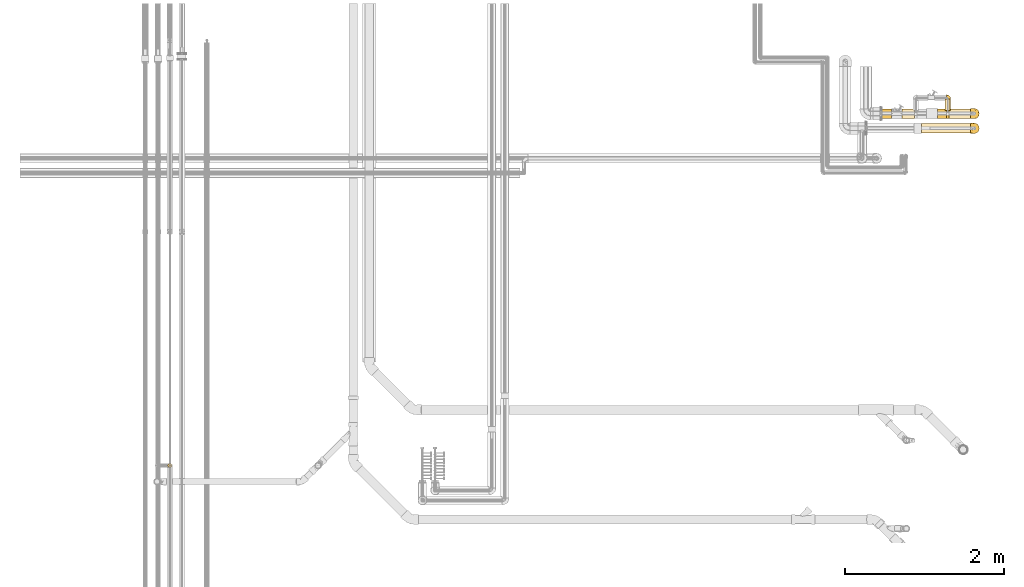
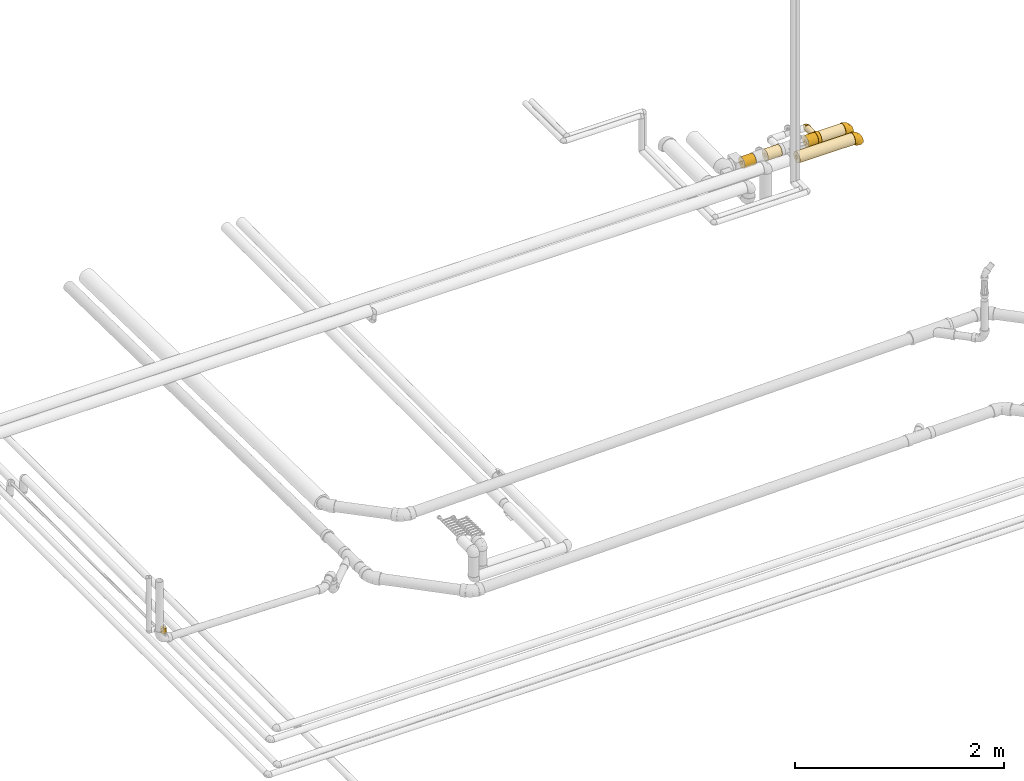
# One storey, part 9 of 83: 11 coverings.
"""IFC2X3 building model written with IfcOpenShell, lengths in millimetres."""

from ifc_helpers import new_model, entity, si_unit, converted_unit, derived_unit, direction, frame, origin_with_axes, origin_2d_with_axis, place, context, subcontext, project, spatial, hollow_circle, extrude, open_shell, surface_model, source, transform, mapped, element, save


model = new_model("IFC2X3")

# Units and contexts
model_context = context("Model", 3, precision=0.01, world=frame((0.0, 4.29681676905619e-09, 0.0)), true_north=direction((4.01073788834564e-13, 1.0)))
plan_context = context("Plan", 3, precision=0.01, world=frame((0.0, 4.29681676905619e-09, 0.0)), true_north=direction((4.01073788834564e-13, 1.0)))
body_context = subcontext(model_context, "Body", "Model", "MODEL_VIEW")
ifc_project = project(units=[converted_unit("PLANEANGLEUNIT", "DEGREE", entity("IfcPositiveLengthMeasure", 0.0174532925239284), si_unit("PLANEANGLEUNIT", "RADIAN"), dimensions=[0, 0, 0, 0, 0, 0, 0]), si_unit("AREAUNIT", "SQUARE_METRE"), si_unit("LENGTHUNIT", "METRE", prefix="MILLI"), si_unit("MASSUNIT", "GRAM", prefix="KILO"), si_unit("POWERUNIT", "WATT"), si_unit("PRESSUREUNIT", "PASCAL"), si_unit("FORCEUNIT", "NEWTON", prefix="KILO"), si_unit("ELECTRICVOLTAGEUNIT", "VOLT"), si_unit("ELECTRICCURRENTUNIT", "AMPERE"), si_unit("THERMODYNAMICTEMPERATUREUNIT", "DEGREE_CELSIUS"), si_unit("TIMEUNIT", "SECOND"), si_unit("VOLUMEUNIT", "CUBIC_METRE"), derived_unit("LINEARVELOCITYUNIT", [(si_unit("LENGTHUNIT", "METRE"), 1), (si_unit("TIMEUNIT", "SECOND"), -1)]), derived_unit("VOLUMETRICFLOWRATEUNIT", [(si_unit("VOLUMEUNIT", "CUBIC_METRE"), 1), (si_unit("TIMEUNIT", "SECOND"), -1)]), derived_unit("THERMALTRANSMITTANCEUNIT", [(si_unit("POWERUNIT", "WATT"), 1), (si_unit("THERMODYNAMICTEMPERATUREUNIT", "KELVIN"), -1), (si_unit("AREAUNIT", "SQUARE_METRE"), -1)]), derived_unit("SOUNDPRESSUREUNIT", [(si_unit("PRESSUREUNIT", "PASCAL"), 1)])], contexts=[model_context, plan_context])

# Site, building, storey
site_placement = place(None, frame((0.0, -4.29681676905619e-09, 0.0), z_axis=(0.0, 0.0, 1.0), x_axis=(1.0, 0.0, 0.0)))
site = spatial("IfcSite", under=ifc_project, at=site_placement, Name="ENGM", CompositionType="ELEMENT")
building_placement = place(site_placement, frame((0.0, 4.29681676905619e-09, 0.0), z_axis=(0.0, 0.0, 1.0), x_axis=(1.0, 0.0, 0.0)))
building = spatial("IfcBuilding", under=site, at=building_placement, Name="TI", CompositionType="ELEMENT")
storey_placement = place(building_placement, frame((0.0, 0.0, 204000.0), z_axis=(0.0, 0.0, 1.0), x_axis=(1.0, 0.0, 0.0)))
storey = spatial("IfcBuildingStorey", under=building, at=storey_placement, Name="Nivå D", CompositionType="ELEMENT", Elevation=204000.0)

# Coverings
shared_shape_1 = source(origin_with_axes(), body_context, "Body", "SurfaceModel", [
    surface_model("IfcShellBasedSurfaceModel", [(35.67206, 48.4, 53.37737), (12.52953, 48.4, 62.96547), (24.57409, 48.4, 59.31066), (53.38045, 48.4, 35.66746), (45.39837, 48.4, 45.39414), (59.31225, 48.4, 24.57023), (62.96584, 48.4, 12.52767), (-47.9758, 48.4, -42.66103), (-13.43483, 48.4, 62.77854), (0.0, 48.4, 64.2), (-26.28736, 48.4, 58.57145), (-37.97393, 48.4, 51.76505), (-47.9758, 48.4, 42.66103), (62.96547, 48.4, -12.52953), (53.37737, 48.4, -35.67206), (59.31066, 48.4, -24.57409), (45.39414, 48.4, -45.39837), (35.66746, 48.4, -53.38045), (-26.30165, 48.4, -58.56503), (-37.98609, 48.4, -51.75613), (-13.44957, 48.4, -62.77538), (12.52767, 48.4, -62.96584), (0.0, 48.4, -64.2), (24.57023, 48.4, -59.31225), (64.2, 48.4, 0.0), (-48.4, 47.9758, -42.66103), (-48.4, 37.97735, -51.76254), (-48.4, 0.0, -64.2), (-48.4, 26.29451, -58.56824), (-48.4, 13.44543, -62.77627), (-48.4, 0.0, 64.2), (-48.4, 37.97735, 51.76254), (-48.4, 47.9758, 42.66103), (-48.4, 26.29451, 58.56824), (-48.4, 13.44543, 62.77627), (-48.4, -32.1, -55.59883), (-48.4, -62.01244, -16.61618), (-48.4, -45.39626, -45.39626), (-48.4, -55.59883, -32.1), (-48.4, -16.61618, 62.01244), (-48.4, -32.1, 55.59883), (-48.4, -62.01244, 16.61618), (-48.4, -45.39626, 45.39626), (-48.4, -55.59883, 32.1), (-48.4, -64.2, 0.0), (-48.4, -16.61618, -62.01244), (-48.10004, 48.10004, 42.66103), (-48.10004, 48.10004, -42.66103), (-1.37629, 41.48093, -64.2), (-37.07461, 27.21182, -59.39278), (-44.97037, 35.57949, -53.73654), (-41.27827, 36.89498, -53.90532), (-37.00016, 45.60229, -52.70243), (-29.31531, 19.83775, -62.64408), (-14.17603, 14.17603, -64.2), (-22.02708, 8.93013, -64.2), (-39.73832, 21.3332, -61.01146), (-41.48093, 1.37629, -64.2), (-48.28795, 48.02221, -42.66103), (-38.16189, 38.88556, -54.19101), (-29.87812, 3.68423, -64.2), (-48.02221, 48.28795, -42.66103), (-21.33925, 39.73822, -61.00958), (-25.79325, 31.12393, -61.02233), (-36.96569, 42.42308, -53.49343), (-3.68423, 29.87812, -64.2), (-8.93013, 22.02708, -64.2), (-48.194, 48.06112, -42.66103), (-48.06112, 48.194, -42.66103), (8.48911, 18.24586, -62.1777), (16.99418, 33.64238, -61.43484), (-30.49395, -9.53365, -63.02284), (-38.64472, 1.94045, -64.2), (-21.95352, -19.60701, -59.31307), (-3.81793, -4.30592, -60.79427), (-3.0225, -24.9528, -51.85283), (20.49703, -8.14014, -49.62828), (15.0359, 4.70894, -57.46464), (35.23599, 5.50194, -45.19577), (-4.14099, -40.52829, -39.08248), (-26.35487, -36.2593, -50.93329), (25.09274, 20.34784, -56.61889), (36.99279, 25.05456, -50.11492), (29.14245, 35.16082, -56.61889), (-13.60469, -58.68896, 0.0), (-25.59283, -60.68938, -12.10735), (2.08894, -50.69012, -13.28018), (3.21553, 6.72208, -61.64201), (7.54281, -9.00849, -55.79479), (57.83799, 20.52552, -18.64159), (-17.95481, -54.92083, -24.56827), (-35.94397, -20.77355, -60.35428), (58.68896, 13.60469, 0.0), (-27.46493, -48.70213, -39.08248), (-1.84212, 39.13906, -64.2), (14.88455, -31.56029, -35.37693), (6.27929, -29.0505, -44.36228), (46.41546, 23.5232, -40.73128), (28.68519, -28.68518, -21.15353), (46.21866, 2.8391, -30.26881), (48.16466, -5.97091, -15.01547), (42.69531, -17.78462, 0.0), (29.68658, -15.30552, -37.126), (17.78462, -42.69531, 0.0), (53.29042, 22.17712, -30.26796), (-17.5789, -6.59656, -62.50752), (3.72961, -44.69, -26.90073), (27.68271, -13.41396, 40.72682), (39.69532, -10.61595, 28.27919), (35.06522, 5.93736, 45.5463), (-26.3805, -60.9583, 11.54664), (-4.25508, -53.97258, 11.91279), (10.97566, -43.46468, 20.06845), (-8.92303, -51.81813, 24.56827), (-30.73003, -57.85383, 24.56827), (58.76223, 24.31789, 18.63869), (-23.23629, -47.69313, 39.08248), (4.27109, -36.84856, 37.91588), (-9.23761, -29.82718, 50.93329), (6.78942, 17.28417, 62.43347), (16.45901, 31.43285, 61.43395), (-3.68423, 29.87812, 64.2), (22.53752, 14.39046, 56.6166), (-30.61027, -9.1573, 63.09805), (-27.71305, -21.57442, 59.31307), (48.93861, -4.26149, 15.61988), (49.80053, 11.17603, 30.26452), (-29.85423, -37.09409, 50.93329), (-22.02708, 8.93013, 64.2), (-29.87812, 3.68423, 64.2), (-18.62042, -11.95946, 61.35313), (46.66938, 22.58996, 40.13183), (55.14267, 30.85344, 30.26452), (18.23226, -5.38984, 52.2997), (28.72076, -28.72075, 21.00884), (37.8297, 25.84287, 49.62462), (27.80973, 28.88783, 56.61705), (-38.64472, 1.94045, 64.2), (-1.84212, 39.13906, 64.2), (-8.93013, 22.02708, 64.2), (-9.69913, -19.09497, 57.07097), (-6.23507, -7.1743, 60.54265), (5.38501, -18.55002, 52.1248), (10.52262, 4.05869, 58.98621), (26.6042, -23.81792, 31.88851), (-2.36811, 7.49373, 62.83226), (-14.17603, 14.17603, 64.2), (-41.48093, 1.37629, 64.2), (-37.07461, 27.21182, 59.39278), (-39.73832, 21.3332, 61.01146), (-29.31531, 19.83774, 62.64408), (-1.37629, 41.48093, 64.2), (-21.32368, 39.73896, 61.01436), (-48.28795, 48.02221, 42.66103), (-44.97037, 35.57949, 53.73654), (-41.27827, 36.89498, 53.90532), (-25.79549, 31.12875, 61.0208), (-38.17194, 38.89834, 54.1808), (-48.194, 48.06112, 42.66103), (-34.13452, 44.98258, 54.62478), (-36.95405, 42.42265, 53.5004), (-48.02221, 48.28795, 42.66103), (-48.06112, 48.194, 42.66103)], [open_shell([[[0, 1, 2]], [[3, 0, 4]], [[3, 5, 6]], [[3, 6, 0]], [[7, 1, 0]], [[8, 9, 10]], [[7, 9, 1]], [[10, 7, 11]], [[7, 10, 9]], [[7, 12, 11]], [[0, 6, 7]], [[6, 13, 14]], [[14, 13, 15]], [[7, 14, 16]], [[14, 7, 6]], [[7, 16, 17]], [[7, 18, 19]], [[18, 7, 20]], [[21, 22, 7]], [[20, 7, 22]], [[7, 23, 21]], [[7, 17, 23]], [[13, 6, 24]], [[25, 26, 27]], [[28, 29, 27]], [[28, 27, 26]], [[25, 27, 30]], [[31, 32, 33]], [[33, 30, 34]], [[33, 32, 25]], [[25, 30, 33]], [[27, 35, 30]], [[35, 36, 30]], [[37, 38, 36]], [[37, 36, 35]], [[30, 36, 39]], [[40, 41, 42]], [[41, 40, 39]], [[42, 41, 43]], [[39, 36, 41]], [[36, 44, 41]], [[35, 27, 45]], [[25, 32, 46]], [[47, 25, 46]], [[12, 7, 46]], [[47, 46, 7]], [[20, 22, 48]], [[49, 50, 51]], [[18, 52, 19]], [[53, 54, 55]], [[56, 57, 29]], [[29, 28, 56]], [[50, 26, 58]], [[59, 53, 49]], [[53, 60, 56]], [[26, 25, 58]], [[61, 7, 52]], [[62, 63, 64]], [[57, 27, 29]], [[57, 56, 60]], [[7, 19, 52]], [[50, 28, 26]], [[63, 54, 53]], [[65, 62, 48]], [[63, 65, 66]], [[52, 18, 62]], [[48, 62, 20]], [[64, 61, 52]], [[62, 18, 20]], [[56, 49, 53]], [[51, 58, 67]], [[59, 64, 63]], [[59, 68, 64]], [[53, 59, 63]], [[47, 59, 51]], [[65, 63, 62]], [[28, 50, 56]], [[50, 49, 56]], [[55, 60, 53]], [[59, 49, 51]], [[58, 51, 50]], [[67, 47, 51]], [[66, 54, 63]], [[62, 64, 52]], [[68, 59, 47]], [[68, 61, 64]], [[69, 65, 70]], [[60, 71, 72]], [[73, 74, 75]], [[71, 45, 72]], [[76, 77, 78]], [[75, 79, 80]], [[69, 70, 81]], [[82, 81, 83]], [[84, 85, 86]], [[87, 88, 74]], [[15, 13, 89]], [[36, 85, 44]], [[36, 38, 90]], [[35, 91, 80]], [[13, 92, 89]], [[38, 93, 90]], [[93, 38, 37]], [[23, 70, 21]], [[94, 22, 21]], [[95, 79, 96]], [[16, 14, 97]], [[82, 16, 97]], [[45, 71, 91]], [[98, 99, 100]], [[83, 70, 23]], [[21, 70, 94]], [[100, 92, 101]], [[76, 78, 102]], [[86, 103, 84]], [[85, 36, 90]], [[99, 89, 100]], [[99, 104, 89]], [[82, 78, 81]], [[105, 74, 73]], [[104, 14, 15]], [[98, 101, 103]], [[13, 24, 92]], [[97, 104, 99]], [[35, 80, 37]], [[106, 86, 90]], [[87, 66, 69]], [[17, 83, 23]], [[75, 80, 73]], [[81, 78, 77]], [[93, 80, 79]], [[73, 71, 105]], [[96, 102, 95]], [[69, 77, 87]], [[77, 69, 81]], [[17, 16, 82]], [[70, 83, 81]], [[82, 83, 17]], [[82, 97, 78]], [[97, 99, 78]], [[102, 78, 99]], [[99, 98, 102]], [[98, 106, 95]], [[92, 100, 89]], [[98, 100, 101]], [[80, 93, 37]], [[90, 93, 79]], [[45, 27, 72]], [[55, 105, 60]], [[71, 73, 91]], [[74, 55, 54]], [[60, 105, 71]], [[55, 74, 105]], [[80, 91, 73]], [[35, 45, 91]], [[88, 77, 76]], [[77, 88, 87]], [[96, 88, 76]], [[75, 74, 88]], [[106, 90, 79]], [[98, 103, 86]], [[95, 106, 79]], [[98, 86, 106]], [[96, 79, 75]], [[98, 95, 102]], [[88, 96, 75]], [[102, 96, 76]], [[74, 54, 87]], [[14, 104, 97]], [[15, 89, 104]], [[70, 65, 94]], [[86, 85, 90]], [[44, 85, 84]], [[66, 87, 54]], [[66, 65, 69]], [[107, 108, 109]], [[44, 84, 110]], [[111, 112, 113]], [[110, 113, 114]], [[5, 115, 6]], [[116, 117, 118]], [[119, 120, 121]], [[122, 120, 119]], [[123, 39, 124]], [[101, 92, 125]], [[115, 126, 125]], [[127, 124, 40]], [[40, 42, 127]], [[128, 129, 130]], [[131, 126, 132]], [[43, 114, 116]], [[109, 133, 107]], [[40, 124, 39]], [[103, 101, 134]], [[108, 125, 126]], [[131, 4, 135]], [[43, 116, 42]], [[132, 5, 3]], [[135, 4, 0]], [[120, 2, 1]], [[115, 5, 132]], [[24, 6, 92]], [[136, 0, 2]], [[39, 123, 137]], [[113, 110, 111]], [[123, 130, 129]], [[120, 122, 136]], [[41, 114, 43]], [[109, 126, 131]], [[1, 138, 120]], [[108, 134, 125]], [[119, 121, 139]], [[136, 122, 135]], [[140, 141, 130]], [[92, 6, 115]], [[107, 142, 117]], [[115, 125, 92]], [[133, 122, 143]], [[108, 144, 134]], [[134, 101, 125]], [[117, 116, 113]], [[127, 116, 118]], [[117, 113, 112]], [[142, 107, 133]], [[3, 4, 131]], [[115, 132, 126]], [[131, 132, 3]], [[131, 135, 109]], [[135, 122, 109]], [[133, 109, 122]], [[143, 122, 119]], [[141, 140, 142]], [[116, 127, 42]], [[124, 127, 118]], [[145, 139, 146]], [[119, 145, 143]], [[137, 123, 129]], [[137, 30, 39]], [[145, 128, 141]], [[130, 123, 124]], [[140, 124, 118]], [[128, 130, 141]], [[124, 140, 130]], [[142, 140, 118]], [[117, 142, 118]], [[142, 133, 143]], [[109, 108, 126]], [[144, 108, 107]], [[139, 145, 119]], [[142, 143, 141]], [[128, 145, 146]], [[141, 143, 145]], [[107, 117, 144]], [[112, 144, 117]], [[110, 114, 41]], [[116, 114, 113]], [[44, 110, 41]], [[110, 84, 111]], [[84, 103, 111]], [[112, 103, 134]], [[103, 112, 111]], [[112, 134, 144]], [[0, 136, 135]], [[2, 120, 136]], [[138, 1, 9]], [[138, 121, 120]], [[34, 30, 147]], [[148, 149, 150]], [[121, 151, 152]], [[31, 153, 32]], [[154, 155, 153]], [[150, 156, 157]], [[154, 33, 149]], [[155, 158, 153]], [[159, 160, 152]], [[34, 149, 33]], [[150, 149, 129]], [[156, 150, 146]], [[152, 151, 8]], [[31, 154, 153]], [[129, 149, 147]], [[10, 152, 8]], [[157, 156, 160]], [[160, 159, 161]], [[8, 151, 9]], [[152, 160, 156]], [[150, 129, 128]], [[121, 152, 156]], [[121, 156, 139]], [[11, 12, 161]], [[34, 147, 149]], [[159, 10, 11]], [[157, 162, 46]], [[157, 46, 155]], [[160, 162, 157]], [[157, 155, 148]], [[33, 154, 31]], [[154, 149, 148]], [[157, 148, 150]], [[154, 148, 155]], [[155, 46, 158]], [[156, 146, 139]], [[10, 159, 152]], [[161, 159, 11]], [[160, 161, 162]], [[146, 150, 128]]])]),
])
for number, where, z_axis, x_axis in (
    (1, (609976.22289, 697908.0, 5915.24411), (0.0, -1.0, 0.0), (0.0, 0.0, 1.0)),
    (2, (609976.22289, 698092.0, 5915.24411), (0.0, -1.0, 0.0), (0.0, 0.0, 1.0)),
):
    element("IfcCovering", number, at=place(storey_placement, frame(where, z_axis=z_axis, x_axis=x_axis)), inside=storey, Name="BI11T - Rørskål m/Al.folie - varme 60-25", PredefinedType="INSULATION", context=body_context, shape_type="MappedRepresentation", body=[
        mapped(shared_shape_1, transform((0.0, 0.0, 0.0), scale=1.0)),
    ])
shared_shape_2 = source(origin_with_axes(), body_context, "Body", "SweptSolid", [
    extrude(hollow_circle(Radius=60.0, WallThickness=40.0, at=origin_2d_with_axis()), frame((0.0, 0.0, 0.0), z_axis=(1.0, 0.0, 0.0), x_axis=(0.0, 1.0, 0.0)), (0.0, 0.0, 1.0), 109.1),
])
covering_1_placement = place(storey_placement, frame((609626.87456, 698092.0, 5915.24411), z_axis=(0.0, 0.0, 1.0), x_axis=(-1.0, 0.0, 0.0)))
element("IfcCovering", 3, at=covering_1_placement, inside=storey, Name="BI11T - Rørskål m/Al.folie - varme 60-25", PredefinedType="INSULATION", context=body_context, shape_type="MappedRepresentation", body=[
    mapped(shared_shape_2, transform((0.0, 0.0, 0.0), scale=1.0)),
])
shared_shape_3 = source(origin_with_axes(), body_context, "Body", "SurfaceModel", [
    surface_model("IfcShellBasedSurfaceModel", [(17.2, -36.3, -52.95234), (17.2, -36.3, -45.45459), (-17.2, -36.3, -45.45459), (-17.2, -36.3, -52.95234), (-17.2, -36.3, 45.45459), (17.2, -36.3, 45.45459), (17.2, -36.3, 52.95234), (-17.2, -36.3, 52.95234), (17.2, 16.61618, -62.01244), (17.2, 32.1, -55.59883), (17.2, 45.39626, -45.39626), (17.2, 55.59883, -32.1), (17.2, 62.01244, -16.61618), (17.2, -12.7978, -62.91149), (17.2, 0.0, -64.2), (17.2, -25.04423, -59.11367), (17.2, 64.2, 0.0), (17.2, 62.01244, 16.61618), (17.2, 55.59883, 32.1), (17.2, 45.39626, 45.39626), (17.2, 32.1, 55.59883), (17.2, -25.04423, 59.11367), (17.2, -12.7978, 62.91149), (17.2, 0.0, 64.2), (17.2, 16.61618, 62.01244), (-17.2, 64.2, 0.0), (-17.2, 62.01244, 16.61618), (-17.2, 55.59883, 32.1), (-17.2, 45.39626, 45.39626), (-17.2, 16.61618, 62.01244), (-17.2, 0.0, 64.2), (-17.2, 32.1, 55.59883), (-17.2, -12.7978, 62.91149), (-17.2, -25.04423, 59.11367), (-17.2, -25.04423, -59.11367), (-17.2, -12.7978, -62.91149), (-17.2, 0.0, -64.2), (-17.2, 16.61618, -62.01244), (-17.2, 32.1, -55.59883), (-17.2, 45.39626, -45.39626), (-17.2, 55.59883, -32.1), (-17.2, 62.01244, -16.61618)], [open_shell([[[0, 1, 2]], [[2, 3, 0]], [[1, 4, 2]], [[5, 6, 4]], [[7, 4, 6]], [[5, 4, 1]], [[1, 8, 9]], [[1, 10, 11]], [[9, 10, 1]], [[1, 11, 12]], [[13, 14, 1]], [[15, 1, 0]], [[1, 15, 13]], [[14, 8, 1]], [[12, 16, 1]], [[5, 16, 17]], [[5, 18, 19]], [[17, 18, 5]], [[19, 20, 5]], [[5, 21, 6]], [[21, 5, 22]], [[23, 22, 5]], [[23, 5, 24]], [[5, 20, 24]], [[16, 5, 1]], [[17, 25, 26]], [[18, 26, 27]], [[16, 25, 17]], [[18, 17, 26]], [[19, 18, 27]], [[27, 28, 19]], [[29, 30, 24]], [[20, 31, 24]], [[31, 20, 28]], [[24, 31, 29]], [[30, 23, 24]], [[28, 20, 19]], [[30, 32, 22]], [[22, 23, 30]], [[32, 21, 22]], [[33, 7, 6]], [[6, 21, 33]], [[33, 21, 32]], [[3, 34, 15]], [[15, 0, 3]], [[34, 13, 15]], [[35, 36, 14]], [[14, 13, 35]], [[35, 13, 34]], [[8, 36, 37]], [[9, 37, 38]], [[14, 36, 8]], [[9, 8, 37]], [[10, 9, 38]], [[38, 39, 10]], [[11, 39, 40]], [[12, 40, 41]], [[11, 40, 12]], [[16, 12, 41]], [[25, 16, 41]], [[39, 11, 10]], [[4, 29, 31]], [[4, 28, 27]], [[31, 28, 4]], [[4, 27, 26]], [[32, 30, 4]], [[33, 4, 7]], [[4, 33, 32]], [[30, 29, 4]], [[26, 25, 4]], [[2, 25, 41]], [[2, 40, 39]], [[41, 40, 2]], [[39, 38, 2]], [[2, 34, 3]], [[34, 2, 35]], [[36, 35, 2]], [[36, 2, 37]], [[2, 38, 37]], [[25, 2, 4]]])]),
])
covering_2_placement = place(storey_placement, frame((609644.07456, 698092.0, 5915.24411), z_axis=(0.0, 0.0, -1.0), x_axis=(1.0, 0.0, 0.0)))
element("IfcCovering", 4, at=covering_2_placement, inside=storey, Name="BI11T - Rørskål m/Al.folie - varme 60-25", PredefinedType="INSULATION", context=body_context, shape_type="MappedRepresentation", body=[
    mapped(shared_shape_3, transform((0.0, 0.0, 0.0), scale=1.0)),
])
shared_shape_4 = source(origin_with_axes(), body_context, "Body", "SweptSolid", [
    extrude(hollow_circle(Radius=60.0, WallThickness=40.0, at=origin_2d_with_axis()), frame((0.0, 0.0, 0.0), z_axis=(1.0, 0.0, 0.0), x_axis=(0.0, 1.0, 0.0)), (0.0, 0.0, 1.0), 266.5),
])
covering_3_placement = place(storey_placement, frame((609927.82289, 698092.0, 5915.24411), z_axis=(0.0, 0.0, 1.0), x_axis=(-1.0, 0.0, 0.0)))
element("IfcCovering", 5, at=covering_3_placement, inside=storey, Name="BI11T - Rørskål m/Al.folie - varme 60-25", PredefinedType="INSULATION", context=body_context, shape_type="MappedRepresentation", body=[
    mapped(shared_shape_4, transform((0.0, 0.0, 0.0), scale=1.0)),
])
shared_shape_5 = source(origin_with_axes(), body_context, "Body", "SweptSolid", [
    extrude(hollow_circle(Radius=35.0, WallThickness=30.0, at=origin_2d_with_axis()), frame((0.0, 0.0, 0.0), z_axis=(1.0, 0.0, 0.0), x_axis=(0.0, 1.0, 0.0)), (0.0, 0.0, 1.0), 146.5),
])
covering_4_placement = place(storey_placement, frame((609644.07456, 698128.3, 5915.20000000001), z_axis=(0.0, 0.0, 1.0), x_axis=(0.0, 1.0, 0.0)))
element("IfcCovering", 6, at=covering_4_placement, inside=storey, Name="BI11T - Rørskål m/Al.folie - varme 60-25", PredefinedType="INSULATION", context=body_context, shape_type="MappedRepresentation", body=[
    mapped(shared_shape_5, transform((0.0, 0.0, 0.0), scale=1.0, scale2=1.0, scale3=1.0, uniform=False)),
])
shared_shape_6 = source(origin_with_axes(), body_context, "Body", "SurfaceModel", [
    surface_model("IfcShellBasedSurfaceModel", [(16.754, 17.2, 34.77446), (24.07259, 17.2, 30.174), (30.18318, 17.2, 24.06109), (34.78009, 17.2, 16.74233), (37.63334, 17.2, 8.5844), (-16.85358, 17.2, 34.72631), (0.0, 17.2, 38.6), (8.5936, 17.2, 37.63124), (-8.6403, 17.2, 37.62054), (37.63124, 17.2, -8.5936), (-16.85358, 17.2, -34.72631), (34.77446, 17.2, -16.754), (30.174, 17.2, -24.07259), (24.06109, 17.2, -30.18318), (16.74233, 17.2, -34.78009), (8.5844, 17.2, -37.63334), (0.0, 17.2, -38.6), (-8.65272, 17.2, -37.61769), (38.6, 17.2, 0.0), (-17.2, 16.85358, -34.72631), (-17.2, 8.64651, -37.61912), (-17.2, 0.0, -38.6), (-17.2, -9.99041, -37.28474), (-17.2, 16.85358, 34.72631), (-17.2, 8.64651, 37.61912), (-17.2, 0.0, 38.6), (-17.2, -19.3, 33.42858), (-17.2, -9.99041, 37.28474), (-17.2, -19.3, -33.42858), (-17.2, -27.29432, -27.29432), (-17.2, -33.42858, -19.3), (-17.2, -37.28474, -9.99041), (-17.2, -27.29432, 27.29432), (-17.2, -33.42858, 19.3), (-17.2, -37.28474, 9.99041), (-17.2, -38.6, 0.0), (-16.95505, 16.95505, 34.72631), (-16.95505, 16.95505, -34.72631), (-10.093, 7.99163, -38.1963), (-12.83075, 12.82906, -36.99358), (-17.2, 13.26686, -35.99055), (-3.77872, 17.2, -38.17102), (-5.03776, 5.03776, -38.6), (34.73552, 3.81722, -12.75404), (36.08141, 4.5382, 0.0), (-10.15633, -13.98603, -35.66175), (-6.6121, -22.09681, -30.62344), (1.28371, -26.90707, -23.49819), (-8.78753, -29.87772, -23.49819), (-9.56329, -6.41448, -37.84068), (5.71724, -30.15925, -15.35902), (9.16812, -30.83912, -8.72948), (-0.24706, -35.22244, -7.34103), (-3.44766, -33.84153, -14.77158), (11.79647, 9.72898, -36.43575), (18.34549, -18.15558, -20.13103), (22.06593, -9.74812, -23.75626), (25.8635, -11.28695, -17.44492), (-1.49358, 13.59417, -38.6), (28.37333, -12.42598, -10.45733), (-13.59417, 1.49358, -38.6), (24.10133, -1.97352, -26.2125), (28.48803, -2.81482, -20.54249), (19.84317, 10.0296, -32.68712), (25.88206, 6.09965, -27.29953), (17.36006, 2.06021, -32.68712), (6.87024, 2.35963, -36.97635), (7.24113, -8.00945, -34.19215), (-0.50614, -3.14153, -37.50843), (4.05164, -18.37681, -30.03902), (14.51559, -13.9994, -27.29953), (31.77079, 7.72102, -20.54249), (34.35248, -4.15374, 0.0), (21.93929, -19.89657, -11.88037), (-8.07832, 3.77832, -38.6), (-5.15248, -4.77878, -37.79042), (-11.11888, 2.51888, -38.6), (-2.98717, 9.98834, -38.6), (22.25656, -22.25656, 0.0), (28.30452, -13.20515, 0.0), (14.33857, -25.65925, -13.89396), (17.82595, -25.47925, -6.71326), (10.01917, -21.63528, -24.00943), (-4.5382, -36.08141, 0.0), (12.0867, -2.89595, -33.9764), (17.76728, -5.8335, -29.68601), (-2.43717, -11.15914, -35.66175), (4.15374, -34.35248, 0.0), (13.20515, -28.30452, 0.0), (1.28094, -26.90823, 23.49819), (4.05381, -18.37465, 30.03962), (-6.61293, -22.09703, 30.62344), (-0.24706, -35.22242, 7.34113), (-8.78917, -29.87801, 23.49819), (-3.44875, -33.84182, 14.77158), (34.73945, 3.81766, 12.74347), (5.72019, -30.154, 15.36694), (-10.15633, -13.98603, 35.66175), (28.38486, -12.4115, 10.45101), (28.49485, -2.81763, 20.53077), (6.87222, 2.34883, 36.97415), (11.80651, 9.72559, 36.43205), (-2.98717, 9.98834, 38.6), (14.34627, -25.6546, 13.89184), (17.82619, -25.47954, 6.71117), (21.9496, -19.88818, 11.87507), (17.76807, -5.84067, 29.68218), (12.10402, -2.89534, 33.96888), (7.25198, -7.9893, 34.19577), (-0.50603, -3.14166, 37.50839), (-5.64892, -3.70957, 38.01619), (-2.43717, -11.15914, 35.66175), (22.0726, -9.74492, 23.75154), (14.52301, -14.0067, 27.28912), (18.35733, -18.15128, 20.12225), (31.77798, 7.7194, 20.53077), (25.89214, 6.09706, 27.28912), (19.8547, 10.02754, 32.67975), (17.37074, 2.05539, 32.67975), (24.11537, -1.97253, 26.19919), (-9.56329, -6.41448, 37.84068), (-13.59417, 1.49358, 38.6), (10.02667, -21.64445, 23.99455), (-1.49358, 13.59417, 38.6), (9.16839, -30.83837, 8.73175), (-5.03776, 5.03776, 38.6), (-8.07832, 3.77832, 38.6), (-11.11888, 2.51888, 38.6), (25.29953, -12.16739, 17.39357), (-13.82008, 12.82072, 36.79423), (-9.45042, 9.44743, 38.09256), (-17.2, 3.77877, 38.17133), (-13.26677, 17.2, 35.99025)], [open_shell([[[0, 1, 2]], [[3, 4, 2]], [[5, 2, 4]], [[6, 7, 0]], [[8, 0, 5]], [[0, 8, 6]], [[5, 0, 2]], [[4, 9, 5]], [[5, 9, 10]], [[11, 12, 13]], [[14, 9, 11]], [[14, 11, 13]], [[10, 14, 15]], [[14, 10, 9]], [[10, 16, 17]], [[16, 10, 15]], [[9, 4, 18]], [[19, 20, 21]], [[21, 22, 19]], [[19, 22, 23]], [[24, 23, 25]], [[26, 27, 25]], [[26, 25, 23]], [[23, 22, 26]], [[28, 29, 30]], [[30, 31, 28]], [[28, 31, 26]], [[32, 26, 33]], [[26, 34, 33]], [[26, 31, 34]], [[31, 35, 34]], [[28, 26, 22]], [[19, 23, 36]], [[37, 19, 36]], [[5, 10, 36]], [[37, 36, 10]], [[38, 39, 17]], [[37, 39, 40]], [[21, 20, 38]], [[37, 10, 39]], [[10, 17, 39]], [[41, 38, 17]], [[20, 40, 39]], [[41, 42, 38]], [[39, 38, 20]], [[19, 37, 40]], [[21, 38, 42]], [[41, 16, 42]], [[43, 9, 44]], [[28, 22, 45]], [[43, 11, 9]], [[46, 47, 48]], [[22, 49, 45]], [[50, 51, 52]], [[52, 31, 53]], [[14, 54, 15]], [[48, 30, 29]], [[29, 28, 46]], [[55, 56, 57]], [[30, 48, 53]], [[15, 58, 16]], [[43, 59, 57]], [[22, 21, 60]], [[61, 62, 56]], [[63, 64, 65]], [[66, 67, 68]], [[14, 63, 54]], [[63, 14, 13]], [[69, 67, 70]], [[64, 13, 12]], [[71, 64, 12]], [[59, 43, 72]], [[61, 64, 62]], [[55, 57, 73]], [[12, 11, 71]], [[47, 46, 69]], [[72, 43, 44]], [[62, 71, 43]], [[30, 53, 31]], [[74, 75, 76]], [[66, 77, 54]], [[54, 58, 15]], [[78, 59, 79]], [[66, 54, 65]], [[80, 81, 51]], [[45, 46, 28]], [[69, 70, 82]], [[50, 80, 51]], [[31, 52, 83]], [[55, 82, 70]], [[76, 75, 49]], [[67, 84, 85]], [[42, 77, 66]], [[9, 18, 44]], [[43, 71, 11]], [[64, 71, 62]], [[64, 63, 13]], [[54, 63, 65]], [[60, 49, 22]], [[46, 45, 86]], [[46, 86, 69]], [[67, 69, 86]], [[86, 49, 75]], [[85, 84, 65]], [[60, 76, 49]], [[42, 68, 74]], [[86, 45, 49]], [[68, 86, 75]], [[66, 68, 42]], [[86, 68, 67]], [[83, 52, 87]], [[83, 35, 31]], [[81, 78, 88]], [[88, 87, 51]], [[52, 51, 87]], [[73, 81, 80]], [[88, 51, 81]], [[50, 52, 53]], [[53, 47, 50]], [[82, 50, 47]], [[55, 73, 80]], [[73, 59, 78]], [[80, 50, 82]], [[56, 55, 70]], [[80, 82, 55]], [[69, 82, 47]], [[85, 56, 70]], [[57, 56, 62]], [[67, 85, 70]], [[61, 65, 64]], [[67, 66, 84]], [[66, 65, 84]], [[43, 57, 62]], [[57, 59, 73]], [[56, 85, 61]], [[65, 61, 85]], [[46, 48, 29]], [[53, 48, 47]], [[54, 77, 58]], [[59, 72, 79]], [[78, 81, 73]], [[74, 68, 75]], [[89, 90, 91]], [[87, 92, 83]], [[93, 94, 89]], [[3, 95, 4]], [[33, 34, 94]], [[92, 96, 94]], [[27, 26, 97]], [[98, 95, 99]], [[100, 101, 102]], [[101, 0, 7]], [[103, 104, 105]], [[26, 32, 91]], [[106, 107, 108]], [[109, 110, 111]], [[32, 33, 93]], [[112, 113, 114]], [[99, 115, 116]], [[1, 116, 2]], [[32, 93, 91]], [[95, 3, 115]], [[95, 44, 4]], [[1, 0, 117]], [[118, 106, 119]], [[118, 101, 100]], [[101, 118, 117]], [[98, 72, 95]], [[106, 113, 112]], [[27, 120, 121]], [[114, 122, 103]], [[90, 108, 111]], [[27, 121, 25]], [[117, 116, 1]], [[78, 98, 105]], [[3, 2, 115]], [[7, 123, 101]], [[116, 115, 2]], [[98, 78, 79]], [[34, 83, 92]], [[92, 124, 96]], [[87, 88, 124]], [[103, 105, 114]], [[89, 122, 90]], [[97, 91, 111]], [[102, 125, 100]], [[109, 126, 110]], [[44, 95, 72]], [[44, 18, 4]], [[95, 115, 99]], [[101, 117, 0]], [[116, 117, 118]], [[91, 97, 26]], [[120, 27, 97]], [[108, 90, 113]], [[111, 91, 90]], [[108, 113, 106]], [[109, 100, 125]], [[121, 120, 127]], [[97, 111, 120]], [[109, 111, 108]], [[126, 109, 125]], [[120, 110, 127]], [[100, 109, 108]], [[34, 35, 83]], [[104, 124, 88]], [[34, 92, 94]], [[105, 104, 78]], [[78, 104, 88]], [[124, 104, 103]], [[124, 103, 96]], [[124, 92, 87]], [[122, 96, 103]], [[89, 94, 96]], [[127, 110, 126]], [[112, 128, 99]], [[105, 98, 128]], [[122, 114, 113]], [[128, 112, 114]], [[99, 116, 119]], [[119, 112, 99]], [[106, 118, 107]], [[118, 100, 107]], [[100, 108, 107]], [[90, 122, 113]], [[122, 89, 96]], [[105, 128, 114]], [[99, 128, 98]], [[118, 119, 116]], [[106, 112, 119]], [[94, 93, 33]], [[91, 93, 89]], [[123, 7, 6]], [[123, 102, 101]], [[79, 72, 98]], [[111, 110, 120]], [[129, 130, 8]], [[125, 130, 131]], [[23, 24, 129]], [[125, 6, 130]], [[6, 8, 130]], [[132, 129, 8]], [[24, 131, 130]], [[132, 36, 129]], [[130, 129, 24]], [[25, 125, 131]], [[23, 129, 36]], [[132, 5, 36]]])]),
])
covering_5_placement = place(storey_placement, frame((609644.07456, 698292.0, 5915.20000000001), z_axis=(0.0, 0.0, 1.0), x_axis=(0.0, 1.0, 0.0)))
element("IfcCovering", 7, at=covering_5_placement, inside=storey, Name="BI11T - Rørskål m/Al.folie - varme 60-25", PredefinedType="INSULATION", context=body_context, shape_type="MappedRepresentation", body=[
    mapped(shared_shape_6, transform((0.0, 0.0, 0.0), scale=1.0)),
])
shared_shape_7 = source(origin_with_axes(), body_context, "Body", "SweptSolid", [
    extrude(hollow_circle(Radius=60.0, WallThickness=40.0, at=origin_2d_with_axis()), frame((0.0, 0.0, 0.0), z_axis=(1.0, 0.0, 0.0), x_axis=(0.0, 1.0, 0.0)), (0.0, 0.0, 1.0), 156.6),
])
covering_6_placement = place(storey_placement, frame((609226.87456, 698092.0, 5915.24411), z_axis=(0.0, 0.0, 1.0), x_axis=(-1.0, 0.0, 0.0)))
element("IfcCovering", 8, at=covering_6_placement, inside=storey, Name="BI11T - Rørskål m/Al.folie - varme 60-25", PredefinedType="INSULATION", context=body_context, shape_type="MappedRepresentation", body=[
    mapped(shared_shape_7, transform((0.0, 0.0, 0.0), scale=1.0)),
])
shared_shape_8 = source(origin_with_axes(), body_context, "Body", "SweptSolid", [
    extrude(hollow_circle(Radius=60.0, WallThickness=40.0, at=origin_2d_with_axis()), frame((0.0, 0.0, 0.0), z_axis=(1.0, 0.0, 0.0), x_axis=(0.0, 1.0, 0.0)), (0.0, 0.0, 1.0), 127.1),
])
covering_7_placement = place(storey_placement, frame((608940.27966, 698092.0, 5915.24411), z_axis=(0.0, 0.0, 1.0), x_axis=(-1.0, 0.0, 0.0)))
element("IfcCovering", 9, at=covering_7_placement, inside=storey, Name="BI11T - Rørskål m/Al.folie - varme 60-25", PredefinedType="INSULATION", context=body_context, shape_type="MappedRepresentation", body=[
    mapped(shared_shape_8, transform((0.0, 0.0, 0.0), scale=1.0)),
])
shared_shape_9 = source(origin_with_axes(), body_context, "Body", "SweptSolid", [
    extrude(hollow_circle(Radius=60.0, WallThickness=40.0, at=origin_2d_with_axis()), frame((0.0, 0.0, 0.0), z_axis=(1.0, 0.0, 0.0), x_axis=(0.0, 1.0, 0.0)), (0.0, 0.0, 1.0), 613.2),
])
covering_8_placement = place(storey_placement, frame((609927.82289, 697908.0, 5915.24411), z_axis=(0.0, 0.0, 1.0), x_axis=(-1.0, 0.0, 0.0)))
element("IfcCovering", 10, at=covering_8_placement, inside=storey, Name="BI11T - Rørskål m/Al.folie - varme 60-25", PredefinedType="INSULATION", context=body_context, shape_type="MappedRepresentation", body=[
    mapped(shared_shape_9, transform((0.0, 0.0, 0.0), scale=1.0)),
])
shared_shape_10 = source(origin_with_axes(), body_context, "Body", "SweptSolid", [
    extrude(hollow_circle(Radius=27.5, WallThickness=20.0, at=origin_2d_with_axis()), frame((0.0, 0.0, 0.0), z_axis=(1.0, 0.0, 0.0), x_axis=(0.0, 1.0, 0.0)), (0.0, 0.0, 1.0), 59.0),
])
covering_9_placement = place(storey_placement, frame((599881.50429, 693675.702, 6241.0), z_axis=(1.0, 0.0, 0.0), x_axis=(0.0, 0.0, 1.0)))
element("IfcCovering", 11, at=covering_9_placement, inside=storey, Name="BI15T - Cellegummi KV 15mm", PredefinedType="INSULATION", context=body_context, shape_type="MappedRepresentation", body=[
    mapped(shared_shape_10, transform((0.0, 0.0, 0.0), scale=1.0)),
])

save(model, "model.ifc")
